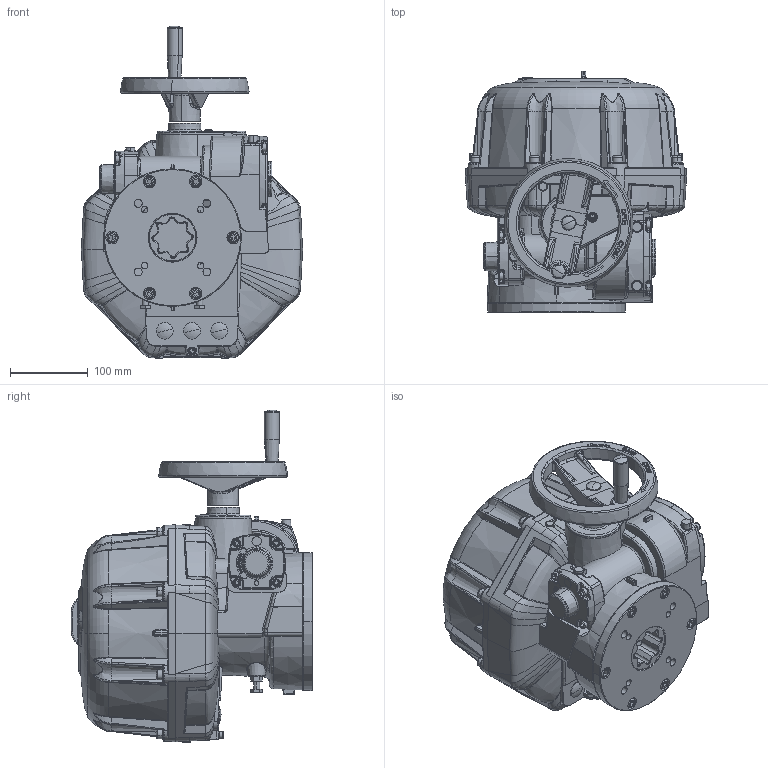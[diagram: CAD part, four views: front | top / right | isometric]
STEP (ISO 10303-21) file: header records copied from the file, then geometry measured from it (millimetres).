
FILE_DESCRIPTION (( 'STEP AP214' ), '1' );
FILE_NAME ('VTX1000.A0A.G00 faces exterieures.STEP', '2025-09-17T12:51:10', ( '' ), ( '' ), 'SwSTEP 2.0', 'SolidWorks 2023', '' );
FILE_SCHEMA (( 'AUTOMOTIVE_DESIGN' ));
Length unit declared in the file: millimetre
Products named in the file (1): VTX1000.A0A.G00 faces exterieures
Bounding box: 285.05 x 311.5 x 427.6 mm (x, y, z)
Surface area: 519509.6 mm2 (no closed solid volume)
Topology: 0 solids, 66 shells, 2140 faces, 6560 edges, 4257 vertices
Faces by surface type: plane 621, bspline 582, cylinder 455, torus 258, cone 184, sphere 40
Entity records: 125827 total; most frequent: CARTESIAN_POINT 50567, ORIENTED_EDGE 10990, DIRECTION 9486, EDGE_CURVE 6493, VERTEX_POINT 4257, AXIS2_PLACEMENT_3D 3702, EDGE_LOOP 2322, CIRCLE 2143
